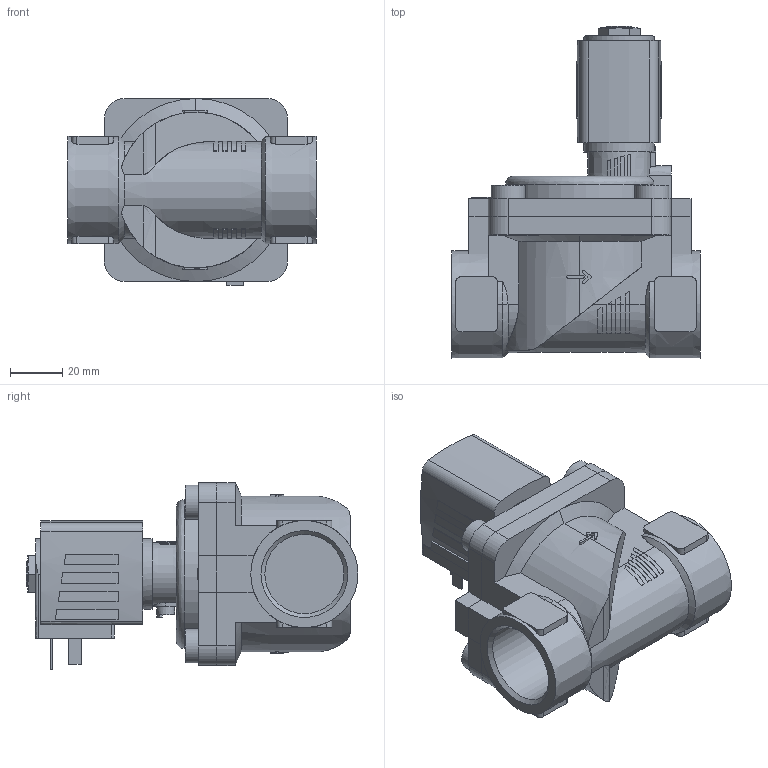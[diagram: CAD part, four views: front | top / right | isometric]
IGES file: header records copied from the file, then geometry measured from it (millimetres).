
Start section: Data from Parasolid IGES Translator 26.0.171, Copyright(c) 2006 Siemens PLM Software. All Rights Reserved.
Global section: file name: 6281-379683-2_2-Way_Solenoid_Valve__Servo-assisted__General_Purpose.igs; native system: By Siemens PLM Incorporated; preprocessor: XPlus GENERIC/IGES 26.0.171; author: Noname; organization: Noname; date: 20240617.144307; units: millimetre
Bounding box: 95 x 127 x 71.5 mm (x, y, z)
Surface area: 54897.9 mm2 (no closed solid volume)
Topology: 0 solids, 0 shells, 371 faces, 1988 edges, 1981 vertices
Faces by surface type: extrusion 248, revolution 123
